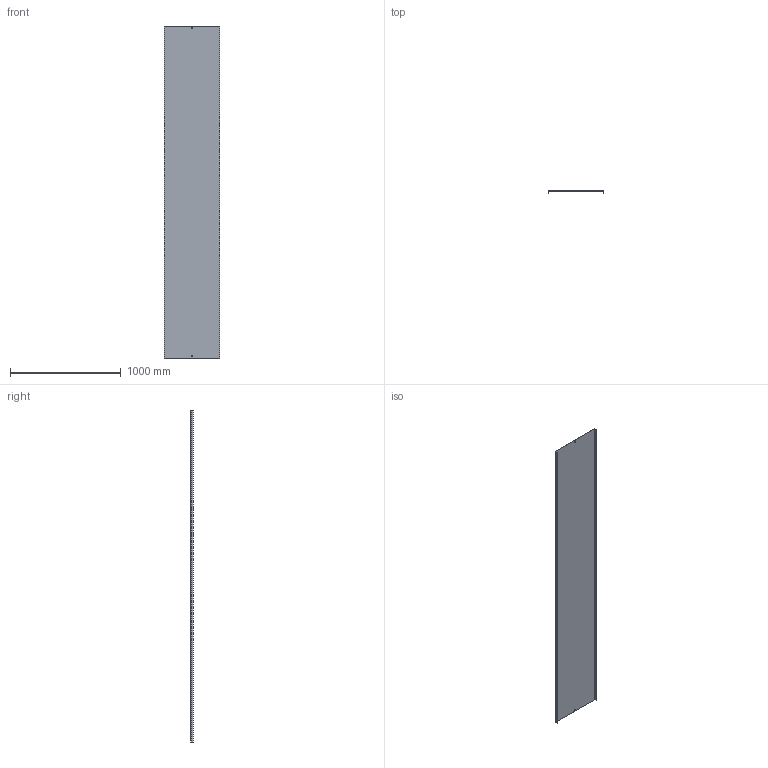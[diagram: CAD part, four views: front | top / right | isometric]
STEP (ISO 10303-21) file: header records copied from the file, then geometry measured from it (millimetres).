
FILE_DESCRIPTION (( 'STEP AP214' ), '1' );
FILE_NAME ('05N3R500.step', '2025-02-21T14:44:47', ( '' ), ( '' ), 'SwSTEP 2.0', 'SolidWorks 2023', '' );
FILE_SCHEMA (( 'AUTOMOTIVE_DESIGN' ));
Length unit declared in the file: millimetre
Products named in the file (1): 05N3R500
Bounding box: 503 x 20 x 3000 mm (x, y, z)
Volume: 2429824.5 mm3; surface area: 3250479 mm2
Topology: 1 solids, 1 shells, 18 faces, 48 edges, 32 vertices
Faces by surface type: plane 18
Entity records: 583 total; most frequent: CARTESIAN_POINT 99, ORIENTED_EDGE 96, DIRECTION 86, VECTOR 48, EDGE_CURVE 48, LINE 48, VERTEX_POINT 32, EDGE_LOOP 22
